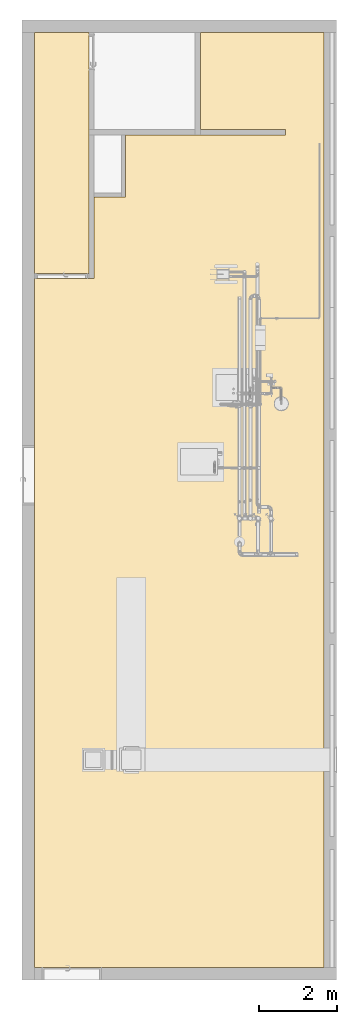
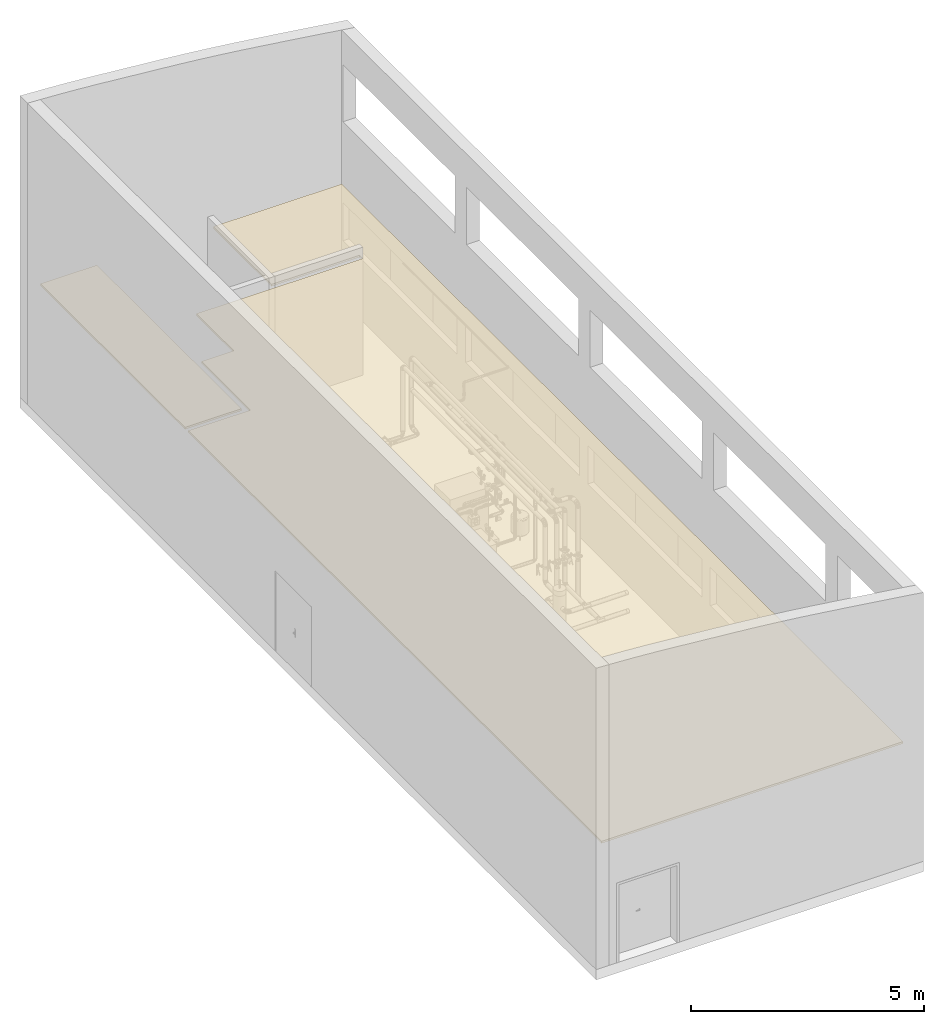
# One storey, part 7 of 43: 2 coverings.
"""IFC2X3 building model written with IfcOpenShell, lengths in millimetres."""

from ifc_helpers import new_model, entity, si_unit, converted_unit, derived_unit, direction, frame, frame_2d, origin, place, context, subcontext, project, spatial, polyline, rectangle, outline, extrude, material, layer, layer_set, layer_usage, type_object, element, save


model = new_model("IFC2X3")

# Units and contexts
model_context = context("Model", 3, precision=0.01, world=origin(), true_north=direction((6.123031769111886e-17, 1.0)))
body_context = subcontext(model_context, "Body", "Model", "MODEL_VIEW")
ifc_project = project(units=[si_unit("LENGTHUNIT", "METRE", prefix="MILLI"), si_unit("AREAUNIT", "SQUARE_METRE"), si_unit("VOLUMEUNIT", "CUBIC_METRE"), converted_unit("PLANEANGLEUNIT", "DEGREE", entity("IfcRatioMeasure", 0.017453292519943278), si_unit("PLANEANGLEUNIT", "RADIAN"), dimensions=[0, 0, 0, 0, 0, 0, 0]), si_unit("MASSUNIT", "GRAM", prefix="KILO"), derived_unit("MASSDENSITYUNIT", [(si_unit("MASSUNIT", "GRAM", prefix="KILO"), 1), (si_unit("LENGTHUNIT", "METRE"), -3)]), derived_unit("MOMENTOFINERTIAUNIT", [(si_unit("LENGTHUNIT", "METRE"), 4)]), si_unit("TIMEUNIT", "SECOND"), si_unit("FREQUENCYUNIT", "HERTZ"), si_unit("THERMODYNAMICTEMPERATUREUNIT", "DEGREE_CELSIUS"), derived_unit("THERMALTRANSMITTANCEUNIT", [(si_unit("MASSUNIT", "GRAM", prefix="KILO"), 1), (si_unit("THERMODYNAMICTEMPERATUREUNIT", "KELVIN"), -1), (si_unit("TIMEUNIT", "SECOND"), -3)]), derived_unit("VOLUMETRICFLOWRATEUNIT", [(si_unit("LENGTHUNIT", "METRE"), 3), (si_unit("TIMEUNIT", "SECOND"), -1)]), derived_unit("MASSFLOWRATEUNIT", [(si_unit("MASSUNIT", "GRAM", prefix="KILO"), 1), (si_unit("TIMEUNIT", "SECOND"), -1)]), derived_unit("ROTATIONALFREQUENCYUNIT", [(si_unit("TIMEUNIT", "SECOND"), -1)]), si_unit("ELECTRICCURRENTUNIT", "AMPERE"), si_unit("ELECTRICVOLTAGEUNIT", "VOLT"), si_unit("POWERUNIT", "WATT"), si_unit("FORCEUNIT", "NEWTON", prefix="KILO"), si_unit("ILLUMINANCEUNIT", "LUX"), si_unit("LUMINOUSFLUXUNIT", "LUMEN"), si_unit("LUMINOUSINTENSITYUNIT", "CANDELA"), derived_unit("USERDEFINED", [(si_unit("MASSUNIT", "GRAM", prefix="KILO"), -1), (si_unit("LENGTHUNIT", "METRE"), -2), (si_unit("TIMEUNIT", "SECOND"), 3), (si_unit("LUMINOUSFLUXUNIT", "LUMEN"), 1)]), derived_unit("SOUNDPOWERUNIT", [(si_unit("MASSUNIT", "GRAM", prefix="KILO"), 1), (si_unit("LENGTHUNIT", "METRE"), 2), (si_unit("TIMEUNIT", "SECOND"), -3)]), derived_unit("SOUNDPRESSUREUNIT", [(si_unit("MASSUNIT", "GRAM", prefix="KILO"), 1), (si_unit("LENGTHUNIT", "METRE"), -1), (si_unit("TIMEUNIT", "SECOND"), -2)]), derived_unit("LINEARVELOCITYUNIT", [(si_unit("LENGTHUNIT", "METRE"), 1), (si_unit("TIMEUNIT", "SECOND"), -1)]), si_unit("PRESSUREUNIT", "PASCAL"), derived_unit("USERDEFINED", [(si_unit("LENGTHUNIT", "METRE"), -2), (si_unit("MASSUNIT", "GRAM", prefix="KILO"), 1), (si_unit("TIMEUNIT", "SECOND"), -2)]), derived_unit("LINEARFORCEUNIT", [(si_unit("MASSUNIT", "GRAM", prefix="KILO"), 1), (si_unit("LENGTHUNIT", "METRE"), 1), (si_unit("TIMEUNIT", "SECOND"), -2), (si_unit("LENGTHUNIT", "METRE"), -1)]), derived_unit("PLANARFORCEUNIT", [(si_unit("MASSUNIT", "GRAM", prefix="KILO"), 1), (si_unit("LENGTHUNIT", "METRE"), 1), (si_unit("TIMEUNIT", "SECOND"), -2), (si_unit("LENGTHUNIT", "METRE"), -2)])], contexts=[model_context])

# Site, building, storey
site_placement = place(None, origin())
site = spatial("IfcSite", under=ifc_project, at=site_placement, Name="Default", CompositionType="ELEMENT")
building_placement = place(site_placement, origin())
building = spatial("IfcBuilding", under=site, at=building_placement, CompositionType="ELEMENT")
storey_placement = place(building_placement, frame((0.0, 0.0, 270.0)))
storey = spatial("IfcBuildingStorey", under=building, at=storey_placement, Name="Niveau 0", CompositionType="ELEMENT", Elevation=270.0)

# Coverings
ifc_material_1 = material(Name="Par défaut")
ifc_layer_1 = layer(ifc_material_1, 35.99999999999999)
ifc_material_2 = material(Name="Panneau de plafond 600 x 600")
ifc_layer_2 = layer(ifc_material_2, 15.999999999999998)
ifc_layer_set = layer_set([ifc_layer_1, ifc_layer_2], Name="Plafond composé:Quadrillage 600 x 600 mm")
ifc_layer_usage_1 = layer_usage(ifc_layer_set, "AXIS3", "POSITIVE", 0.0)
covering_type_1 = type_object("IfcCoveringType", Name="Plafond composé:Quadrillage 600 x 600 mm", PredefinedType="CEILING")
covering_1_placement = place(storey_placement, origin())
element("IfcCovering", 1, at=covering_1_placement, inside=storey, type_object=covering_type_1, material=ifc_layer_usage_1, Name="Plafond composé:Quadrillage 600 x 600 mm", ObjectType="Plafond composé:Quadrillage 600 x 600 mm", PredefinedType="CEILING", context=body_context, shape_type="SweptSolid", body=[
    extrude(outline(polyline([(559.2307692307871, -3824.6153846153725), (559.2307692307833, -6324.615384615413), (3739.2307692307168, -6324.615384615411), (3739.230769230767, 17745.38461538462), (-3720.769230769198, 17745.38461538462), (-3720.769230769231, 15.384615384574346), (-2180.769230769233, 15.384615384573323), (-2180.7692307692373, -2084.6153846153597), (-1380.7692307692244, -2084.61538461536), (-1380.7692307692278, -3684.615384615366), (489.2307692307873, -3684.615384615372), (2739.2307692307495, -3684.615384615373), (2739.230769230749, -3824.6153846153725), (559.2307692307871, -3824.6153846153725)])), frame((-4059.2307692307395, -6644.615384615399, 3000.0), z_axis=(0.0, 0.0, -1.0), x_axis=(1.0, 0.0, 0.0)), (0.0, 0.0, -1.0), 52.00000000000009),
])
ifc_layer_usage_2 = layer_usage(ifc_layer_set, "AXIS3", "POSITIVE", 0.0)
covering_type_2 = type_object("IfcCoveringType", Name="Plafond composé:Quadrillage 600 x 600 mm", PredefinedType="CEILING")
covering_2_placement = place(storey_placement, origin())
element("IfcCovering", 2, at=covering_2_placement, inside=storey, type_object=covering_type_2, material=ifc_layer_usage_2, Name="Plafond composé:Quadrillage 600 x 600 mm", ObjectType="Plafond composé:Quadrillage 600 x 600 mm", PredefinedType="CEILING", context=body_context, shape_type="SweptSolid", body=[
    extrude(rectangle(XDim=1399.9999999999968, YDim=6199.999999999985, at=frame_2d((-139.99999999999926, -105.99999999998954), x_axis=(1.0, 0.0))), frame((-6940.0, -3314.0, 3000.0)), (0.0, 0.0, 1.0), 52.00000000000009),
])

save(model, "model.ifc")
